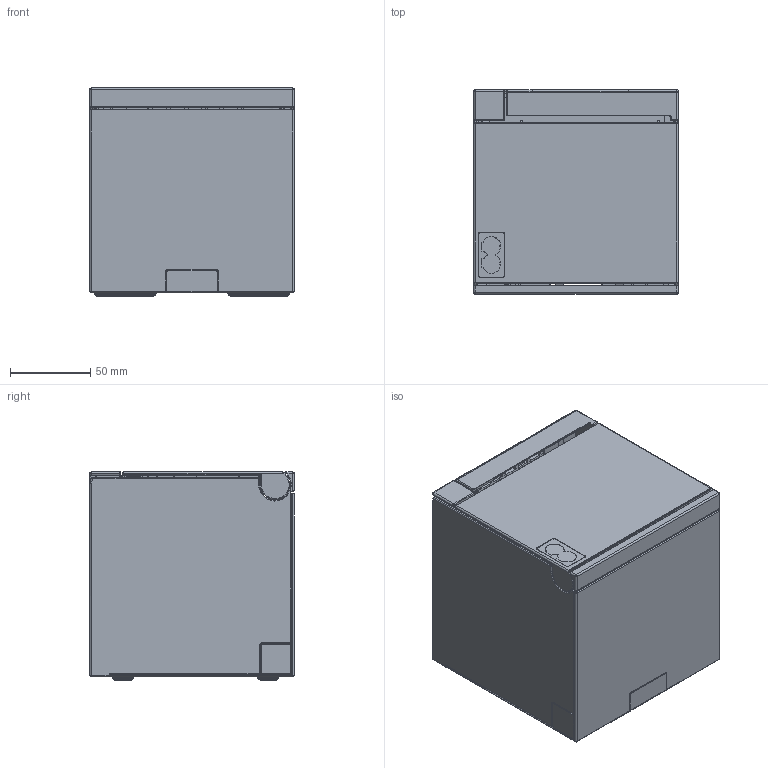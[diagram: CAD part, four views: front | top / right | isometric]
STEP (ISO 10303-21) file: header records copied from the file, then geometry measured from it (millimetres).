
FILE_DESCRIPTION((''),'2;1');
FILE_NAME('TM-M30III_TOP_CLOSE_SW0001','2025-01-23T14:34:02',('0092109'),(''),'CREO PARAMETRIC BY PTC INC, 2022281','CREO PARAMETRIC BY PTC INC, 2022281','');
FILE_SCHEMA(('AUTOMOTIVE_DESIGN { 1 0 10303 214 1 1 1 1 }'));
Products named in the file (1): TM-M30III_TOP_CLOSE_SW0001
Bounding box: 127 x 127 x 129.4 mm (x, y, z)
Surface area: 222849.3 mm2 (no closed solid volume)
Topology: 0 solids, 26 shells, 2947 faces, 8314 edges, 5376 vertices
Faces by surface type: plane 1502, cylinder 1048, torus 206, bspline 88, sphere 71, cone 31, extrusion 1
Entity records: 100140 total; most frequent: CARTESIAN_POINT 23511, DIRECTION 16023, ORIENTED_EDGE 15666, EDGE_CURVE 8314, VECTOR 5601, LINE 5600, VERTEX_POINT 5376, AXIS2_PLACEMENT_3D 5211
